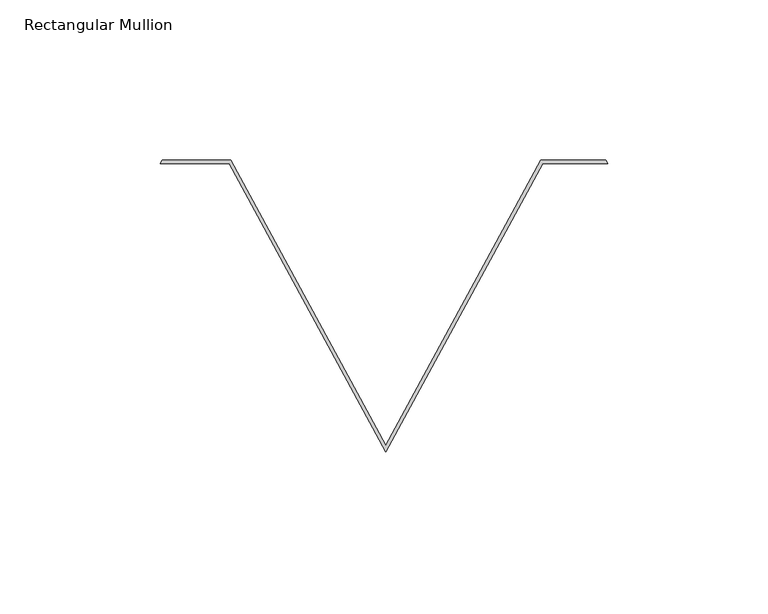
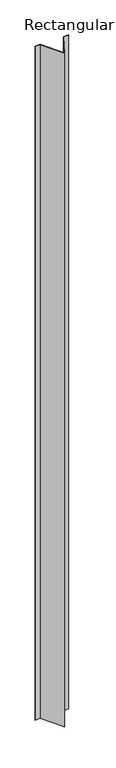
"""IFC4 building model written with IfcOpenShell, lengths in millimetres: member geometry, Rectangular Mullion : CD_NINELINE_Pleat End."""

from ifc_helpers import new_model, si_unit, frame, origin, place, context, project, spatial, polyline, outline, extrude, source, transform, mapped, element, save


def rectangular_mullion_508b6aa7(model_context):
    return source(origin(), model_context, "Body", "SweptSolid", [
        extrude(outline(polyline([(-138.8729579, 0.0), (-117.4072161, 0.0), (-69.1383234, -88.9018164), (-20.8694306, 0.0), (-0.5429557, 0.0), (0.0, -1.0), (-20.272258, -1.0), (-69.1382709, -91.0), (-118.0042839, -1.0), (-139.415904, -1.0), (-138.8729579, 0.0)])), frame((0.0, 0.0, -2947.0), z_axis=(0.0, 0.0, 1.0), x_axis=(1.0, 0.0, 0.0)), (0.0, 0.0, 1.0), 2947.0),
    ])


if __name__ == "__main__":
    model = new_model("IFC4")
    model_context = context("Model", 3, world=origin())
    ifc_project = project(units=[si_unit("LENGTHUNIT", "METRE", prefix="MILLI")], contexts=[model_context])
    site = spatial("IfcSite", under=ifc_project)
    building = spatial("IfcBuilding", under=site)
    placement = place(None, origin())
    rectangular_mullion_shape = rectangular_mullion_508b6aa7(model_context)
    element("IfcMember", 1, ObjectType="Rectangular Mullion : CD_NINELINE_Pleat End", at=placement, inside=building, context=model_context, shape_type="MappedRepresentation", body=[
        mapped(rectangular_mullion_shape, transform((0.0, 0.0, 0.0), x_axis=(1.0, 0.0, 0.0), y_axis=(0.0, 1.0, 0.0), z_axis=(0.0, 0.0, 1.0))),
    ])
    save(model, "model.ifc")
